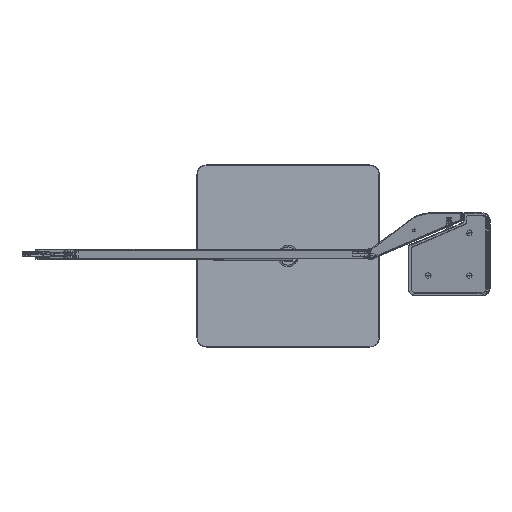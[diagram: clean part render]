
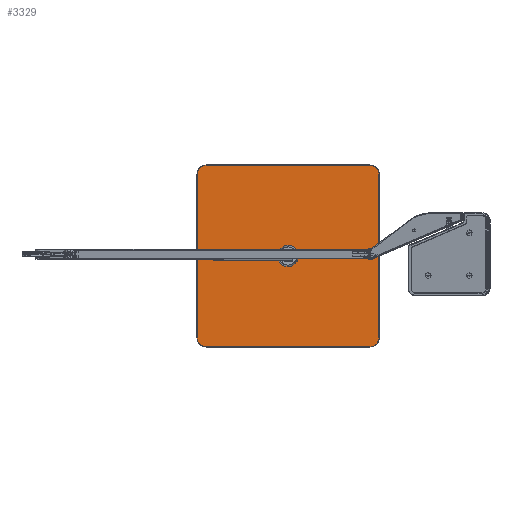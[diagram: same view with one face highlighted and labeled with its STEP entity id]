
A CAD part, top view. The second image highlights one B-rep face of the part: STEP entity #3329.
In plain terms, the highlighted planar face has unit normal (0, 0, 1).
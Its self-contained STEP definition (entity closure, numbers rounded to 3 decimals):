
#3329=ADVANCED_FACE('',(#6154),#40624,.T.);
#6154=FACE_OUTER_BOUND('',#9205,.T.);
#9205=EDGE_LOOP('',(#22278,#22279,#22280,#22281,#22282,#22283,#22284,#22285));
#22278=ORIENTED_EDGE('',*,*,#29016,.T.);
#22279=ORIENTED_EDGE('',*,*,#28979,.T.);
#22280=ORIENTED_EDGE('',*,*,#29017,.T.);
#22281=ORIENTED_EDGE('',*,*,#28980,.T.);
#22282=ORIENTED_EDGE('',*,*,#29011,.T.);
#22283=ORIENTED_EDGE('',*,*,#28981,.T.);
#22284=ORIENTED_EDGE('',*,*,#29010,.T.);
#22285=ORIENTED_EDGE('',*,*,#28982,.T.);
#28979=EDGE_CURVE('',#39707,#39708,#33470,.T.);
#28980=EDGE_CURVE('',#39709,#39710,#33471,.T.);
#28981=EDGE_CURVE('',#39711,#39712,#33472,.T.);
#28982=EDGE_CURVE('',#39713,#39706,#33473,.T.);
#29010=EDGE_CURVE('',#39712,#39713,#35661,.T.);
#29011=EDGE_CURVE('',#39710,#39711,#35662,.T.);
#29016=EDGE_CURVE('',#39706,#39707,#35663,.T.);
#29017=EDGE_CURVE('',#39708,#39709,#35664,.T.);
#33470=B_SPLINE_CURVE_WITH_KNOTS('',1,(#129616,#129617),.UNSPECIFIED.,.F.,
 .F.,(2,2),(0.,207.),.UNSPECIFIED.);
#33471=B_SPLINE_CURVE_WITH_KNOTS('',1,(#129618,#129619),.UNSPECIFIED.,.F.,
 .F.,(2,2),(0.,207.),.UNSPECIFIED.);
#33472=B_SPLINE_CURVE_WITH_KNOTS('',1,(#129620,#129621),.UNSPECIFIED.,.F.,
 .F.,(2,2),(0.,207.),.UNSPECIFIED.);
#33473=B_SPLINE_CURVE_WITH_KNOTS('',1,(#129622,#129623),.UNSPECIFIED.,.F.,
 .F.,(2,2),(0.,207.),.UNSPECIFIED.);
#35661=(
BOUNDED_CURVE()
B_SPLINE_CURVE(2,(#129690,#129691,#129692),.UNSPECIFIED.,.F.,.F.)
B_SPLINE_CURVE_WITH_KNOTS((3,3),(-18.064,0.),.UNSPECIFIED.)
CURVE()
GEOMETRIC_REPRESENTATION_ITEM()
RATIONAL_B_SPLINE_CURVE((1.,0.707,1.))
REPRESENTATION_ITEM('')
);
#35662=(
BOUNDED_CURVE()
B_SPLINE_CURVE(2,(#129693,#129694,#129695),.UNSPECIFIED.,.F.,.F.)
B_SPLINE_CURVE_WITH_KNOTS((3,3),(-18.064,0.),.UNSPECIFIED.)
CURVE()
GEOMETRIC_REPRESENTATION_ITEM()
RATIONAL_B_SPLINE_CURVE((1.,0.707,1.))
REPRESENTATION_ITEM('')
);
#35663=(
BOUNDED_CURVE()
B_SPLINE_CURVE(2,(#129704,#129705,#129706),.UNSPECIFIED.,.F.,.F.)
B_SPLINE_CURVE_WITH_KNOTS((3,3),(-18.064,0.),.UNSPECIFIED.)
CURVE()
GEOMETRIC_REPRESENTATION_ITEM()
RATIONAL_B_SPLINE_CURVE((1.,0.707,1.))
REPRESENTATION_ITEM('')
);
#35664=(
BOUNDED_CURVE()
B_SPLINE_CURVE(2,(#129707,#129708,#129709),.UNSPECIFIED.,.F.,.F.)
B_SPLINE_CURVE_WITH_KNOTS((3,3),(-18.064,0.),.UNSPECIFIED.)
CURVE()
GEOMETRIC_REPRESENTATION_ITEM()
RATIONAL_B_SPLINE_CURVE((1.,0.707,1.))
REPRESENTATION_ITEM('')
);
#39706=VERTEX_POINT('',#129568);
#39707=VERTEX_POINT('',#129569);
#39708=VERTEX_POINT('',#129570);
#39709=VERTEX_POINT('',#129571);
#39710=VERTEX_POINT('',#129572);
#39711=VERTEX_POINT('',#129573);
#39712=VERTEX_POINT('',#129574);
#39713=VERTEX_POINT('',#129575);
#40624=PLANE('',#43348);
#43348=AXIS2_PLACEMENT_3D('',#129326,#44265,$);
#44265=DIRECTION('',(0.,0.,1.));
#129326=CARTESIAN_POINT('',(-138.,138.,10.5));
#129568=CARTESIAN_POINT('',(103.5,-115.,10.5));
#129569=CARTESIAN_POINT('',(115.,-103.5,10.5));
#129570=CARTESIAN_POINT('',(115.,103.5,10.5));
#129571=CARTESIAN_POINT('',(103.5,115.,10.5));
#129572=CARTESIAN_POINT('',(-103.5,115.,10.5));
#129573=CARTESIAN_POINT('',(-115.,103.5,10.5));
#129574=CARTESIAN_POINT('',(-115.,-103.5,10.5));
#129575=CARTESIAN_POINT('',(-103.5,-115.,10.5));
#129616=CARTESIAN_POINT('',(115.,-103.5,10.5));
#129617=CARTESIAN_POINT('',(115.,103.5,10.5));
#129618=CARTESIAN_POINT('',(103.5,115.,10.5));
#129619=CARTESIAN_POINT('',(-103.5,115.,10.5));
#129620=CARTESIAN_POINT('',(-115.,103.5,10.5));
#129621=CARTESIAN_POINT('',(-115.,-103.5,10.5));
#129622=CARTESIAN_POINT('',(-103.5,-115.,10.5));
#129623=CARTESIAN_POINT('',(103.5,-115.,10.5));
#129690=CARTESIAN_POINT('',(-115.,-103.5,10.5));
#129691=CARTESIAN_POINT('',(-115.,-115.,10.5));
#129692=CARTESIAN_POINT('',(-103.5,-115.,10.5));
#129693=CARTESIAN_POINT('',(-103.5,115.,10.5));
#129694=CARTESIAN_POINT('',(-115.,115.,10.5));
#129695=CARTESIAN_POINT('',(-115.,103.5,10.5));
#129704=CARTESIAN_POINT('',(103.5,-115.,10.5));
#129705=CARTESIAN_POINT('',(115.,-115.,10.5));
#129706=CARTESIAN_POINT('',(115.,-103.5,10.5));
#129707=CARTESIAN_POINT('',(115.,103.5,10.5));
#129708=CARTESIAN_POINT('',(115.,115.,10.5));
#129709=CARTESIAN_POINT('',(103.5,115.,10.5));
